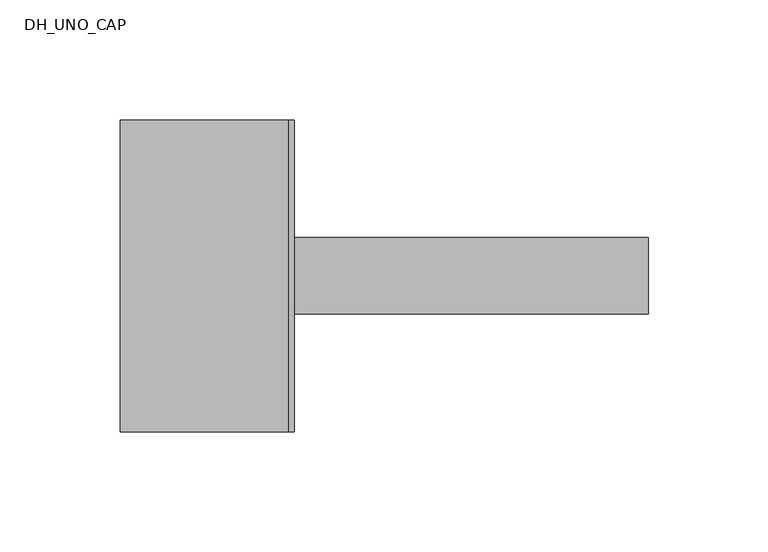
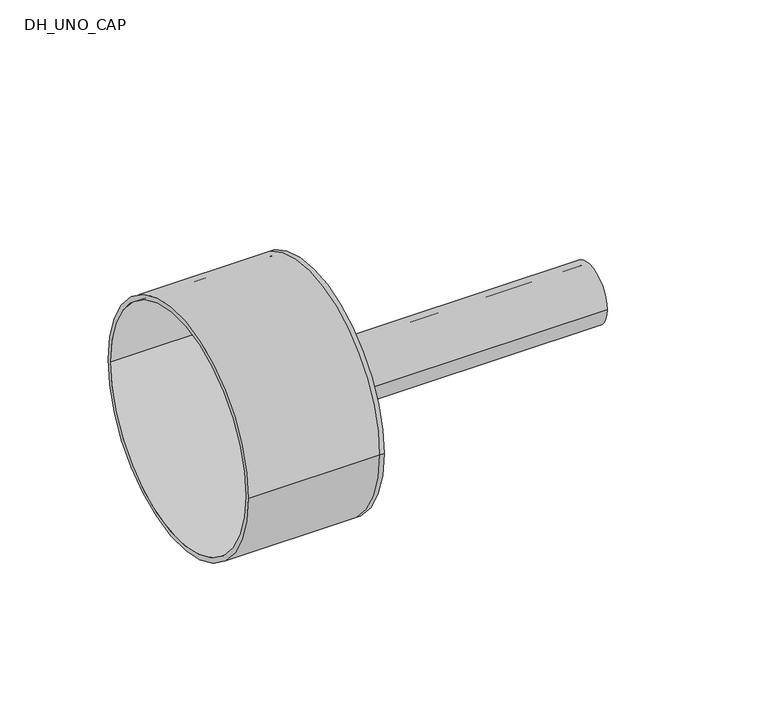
"""IFC4 building model written with IfcOpenShell, lengths in millimetres: pipe fitting geometry, DH_UNO_CAP : RAUVIPEX UNO + 11 Heating - Solid Cap."""

from ifc_helpers import new_model, si_unit, point, frame, origin, origin_2d, place, context, project, spatial, polyline, circle_curve, trimmed, segment, composite_curve, outline, extrude, source, transform, mapped, element, save
from ifc_brep_helpers import plane_surface, cylinder_surface, revolved_surface, advanced_brep


def dh_uno_cap_0c5a7a9d(model_context):
    return source(origin(), model_context, "Body", "SolidModel", [
        extrude(outline(composite_curve([segment(trimmed(circle_curve(origin_2d(), 16.0), [point((-16.0, 0.0))], [point((16.0, 0.0))], False, "CARTESIAN"), True, "CONTINUOUS"), segment(trimmed(circle_curve(origin_2d(), 16.0), [point((16.0, 0.0))], [point((-16.0, 0.0))], False, "CARTESIAN"), True, "CONTINUOUS")], self_intersect=False), holes=[composite_curve([segment(trimmed(circle_curve(origin_2d(), 13.1), [point((-13.1, 0.0))], [point((13.1, 0.0))], True, "CARTESIAN"), True, "CONTINUOUS"), segment(trimmed(circle_curve(origin_2d(), 13.1), [point((13.1, 0.0))], [point((-13.1, 0.0))], True, "CARTESIAN"), True, "CONTINUOUS")], self_intersect=False)]), frame((0.0, 0.0, 0.0), z_axis=(1.0, 0.0, 0.0), x_axis=(0.0, 1.0, 0.0)), (0.0, 0.0, 1.0), 150.0),
        advanced_brep(
        [(-70.0, -65.0, 0.0), (-70.0, 65.0, 0.0), (-70.0, -62.5, 0.0), (-70.0, 62.5, 0.0), (0.0, -62.5, 0.0), (0.0, 62.5, 0.0), (0.0, -65.0, 0.0), (0.0, 65.0, 0.0), (0.0, 16.0, 0.0), (0.0, -16.0, 0.0), (2.5, -65.0, 0.0), (2.5, 65.0, 0.0), (2.5, -16.0, 0.0), (2.5, 16.0, 0.0)],
        [
            (0, 1, circle_curve(frame((-70.0, 0.0, 0.0), z_axis=(-1.0, 0.0, 0.0), x_axis=(0.0, 1.0, 0.0)), 65.0)),
            (1, 0, circle_curve(frame((-70.0, 0.0, 0.0), z_axis=(-1.0, 0.0, 0.0), x_axis=(0.0, 1.0, 0.0)), 65.0)),
            (2, 3, circle_curve(frame((-70.0, 0.0, 0.0), z_axis=(1.0, 0.0, 0.0), x_axis=(0.0, 1.0, 0.0)), 62.5)),
            (3, 2, circle_curve(frame((-70.0, 0.0, 0.0), z_axis=(1.0, 0.0, 0.0), x_axis=(0.0, 1.0, 0.0)), 62.5)),
            (2, 4),
            (4, 5, circle_curve(frame((0.0, 0.0, 0.0), z_axis=(1.0, 0.0, 0.0), x_axis=(0.0, 1.0, 0.0)), 62.5)),
            (5, 3),
            (5, 4, circle_curve(frame((0.0, 0.0, 0.0), z_axis=(1.0, 0.0, 0.0), x_axis=(0.0, 1.0, 0.0)), 62.5)),
            (0, 6),
            (6, 7, circle_curve(frame((0.0, 0.0, 0.0), z_axis=(-1.0, 0.0, 0.0), x_axis=(0.0, 1.0, 0.0)), 65.0)),
            (7, 1),
            (7, 6, circle_curve(frame((0.0, 0.0, 0.0), z_axis=(-1.0, 0.0, 0.0), x_axis=(0.0, 1.0, 0.0)), 65.0)),
            (8, 9, circle_curve(frame((0.0, 0.0, 0.0), z_axis=(1.0, 0.0, 0.0), x_axis=(0.0, 1.0, 0.0)), 16.0)),
            (9, 8, circle_curve(frame((0.0, 0.0, 0.0), z_axis=(1.0, 0.0, 0.0), x_axis=(0.0, 1.0, 0.0)), 16.0)),
            (10, 11, circle_curve(frame((2.5, 0.0, 0.0), z_axis=(1.0, 0.0, 0.0), x_axis=(0.0, 1.0, 0.0)), 65.0)),
            (11, 10, circle_curve(frame((2.5, 0.0, 0.0), z_axis=(1.0, 0.0, 0.0), x_axis=(0.0, 1.0, 0.0)), 65.0)),
            (12, 13, circle_curve(frame((2.5, 0.0, 0.0), z_axis=(-1.0, 0.0, 0.0), x_axis=(0.0, 1.0, 0.0)), 16.0)),
            (13, 12, circle_curve(frame((2.5, 0.0, 0.0), z_axis=(-1.0, 0.0, 0.0), x_axis=(0.0, 1.0, 0.0)), 16.0)),
            (11, 7),
            (6, 10),
            (8, 13),
            (12, 9),
        ],
        [
            plane_surface(frame((-70.0, 0.0, 0.0), z_axis=(-1.0, 0.0, 0.0), x_axis=(0.0, 0.0, 1.0))),
            revolved_surface(polyline([(0.0, 62.5, 0.0), (-70.0, 62.5, 0.0)]), (-70.0, 0.0, 0.0), (1.0, 0.0, 0.0)),
            cylinder_surface(frame((-70.0, 0.0, 0.0), z_axis=(-1.0, 0.0, 0.0), x_axis=(0.0, 1.0, 0.0)), 65.0),
            plane_surface(frame((0.0, 0.0, 0.0), z_axis=(-1.0, 0.0, 0.0), x_axis=(0.0, 0.0, 1.0))),
            plane_surface(frame((2.5, 0.0, 0.0), z_axis=(1.0, 0.0, 0.0), x_axis=(0.0, 0.0, 1.0))),
            cylinder_surface(frame((0.0, 0.0, 0.0), z_axis=(-1.0, 0.0, 0.0), x_axis=(0.0, 1.0, 0.0)), 65.0),
            revolved_surface(polyline([(0.0, 16.0, 0.0), (2.5, 16.0, 0.0)]), (0.0, 0.0, 0.0), (-1.0, 0.0, 0.0)),
        ],
        [
            (0, [[1, 2], [3, 4]]),
            (1, [[-3, 5, 6, 7]]),
            (1, [[-4, -7, 8, -5]]),
            (2, [[-1, 9, 10, 11]]),
            (2, [[-2, -11, 12, -9]]),
            (3, [[-6, -8], [13, 14]]),
            (4, [[15, 16], [17, 18]]),
            (5, [[-16, 19, -10, 20]]),
            (5, [[-15, -20, -12, -19]]),
            (6, [[21, -17, 22, -13]]),
            (6, [[-21, -14, -22, -18]]),
        ],
    ),
    ])


if __name__ == "__main__":
    model = new_model("IFC4")
    model_context = context("Model", 3, world=origin())
    ifc_project = project(units=[si_unit("LENGTHUNIT", "METRE", prefix="MILLI")], contexts=[model_context])
    site = spatial("IfcSite", under=ifc_project)
    building = spatial("IfcBuilding", under=site)
    placement = place(None, origin())
    dh_uno_cap_shape = dh_uno_cap_0c5a7a9d(model_context)
    element("IfcPipeFitting", 1, ObjectType="DH_UNO_CAP : RAUVIPEX UNO + 11 Heating - Solid Cap", at=placement, inside=building, context=model_context, shape_type="MappedRepresentation", body=[
        mapped(dh_uno_cap_shape, transform((0.0, 0.0, 0.0), x_axis=(1.0, 0.0, 0.0), y_axis=(0.0, 1.0, 0.0), z_axis=(0.0, 0.0, 1.0))),
    ])
    save(model, "model.ifc")
